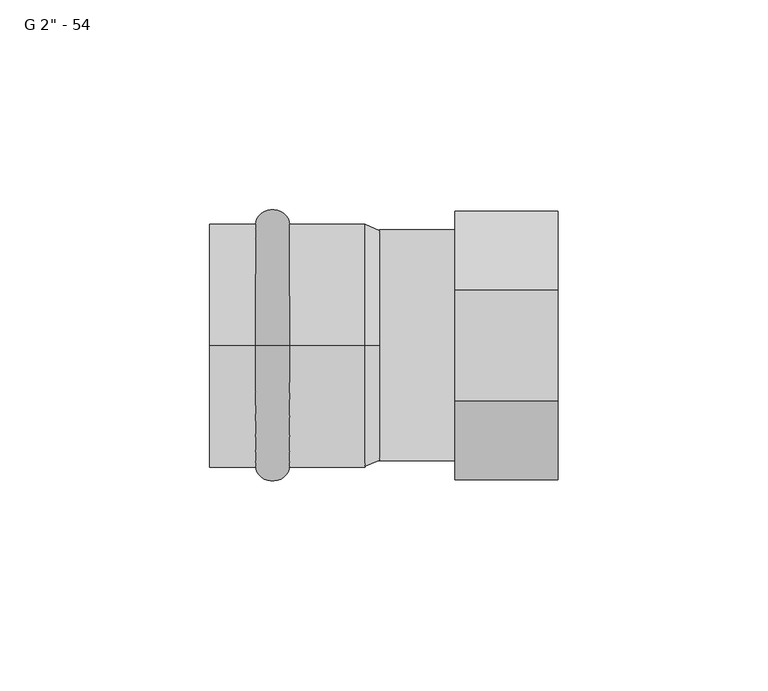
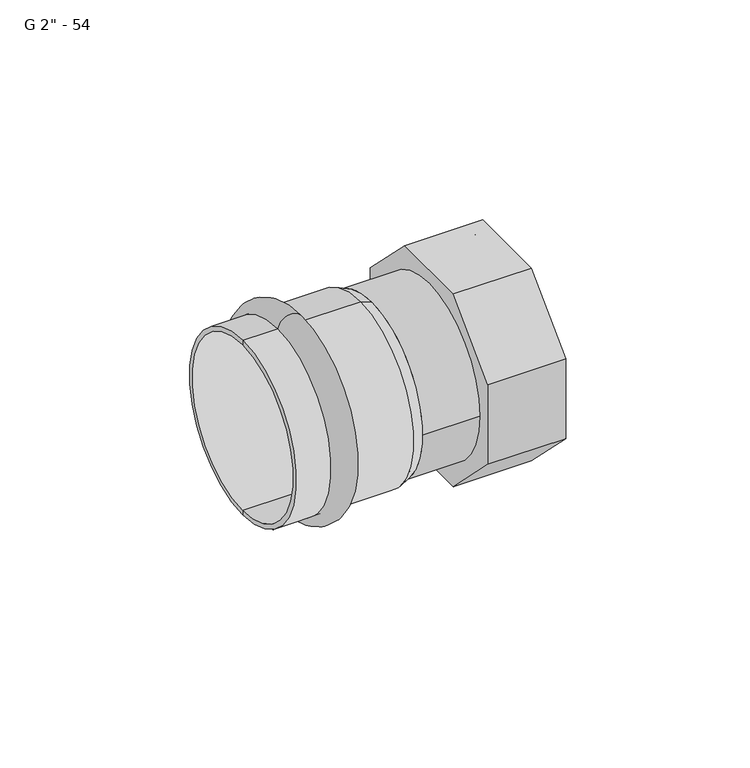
"""IFC4 building model written with IfcOpenShell, lengths in millimetres: pipe fitting geometry."""

from ifc_helpers import new_model, si_unit, point, frame, origin, origin_2d, place, context, project, spatial, polyline, circle_curve, ellipse_curve, trimmed, segment, composite_curve, outline, extrude, source, transform, mapped, element, save
from ifc_brep_helpers import plane_surface, cylinder_surface, revolved_surface, advanced_brep


def pipe_fitting_c8741562(model_context):
    return source(origin(), model_context, "Body", "SolidModel", [
        advanced_brep(
        [(-26.0, 0.0, 29.0), (-26.0, 0.0, -29.0), (-18.0, 0.0, -29.0), (-18.0, 0.0, 29.0)],
        [
            (0, 1, circle_curve(frame((-26.0, 0.0, 0.0), z_axis=(-1.0, 0.0, 0.0), x_axis=(0.0, 0.0, -1.0)), 29.0)),
            (1, 2),
            (2, 3, circle_curve(frame((-18.0, 0.0, 0.0), z_axis=(1.0, 0.0, 0.0), x_axis=(0.0, 0.0, -1.0)), 29.0)),
            (3, 0),
            (1, 0, circle_curve(frame((-26.0, 0.0, 0.0), z_axis=(-1.0, 0.0, 0.0), x_axis=(0.0, 0.0, -1.0)), 29.0)),
            (3, 2, circle_curve(frame((-18.0, 0.0, 0.0), z_axis=(1.0, 0.0, 0.0), x_axis=(0.0, 0.0, -1.0)), 29.0)),
            (2, 1, ellipse_curve(frame((-22.0, 0.0, -29.0), z_axis=(0.0, 1.0, 0.0), x_axis=(-1.0, 0.0, 0.0)), 4.0, 3.5)),
            (0, 3, ellipse_curve(frame((-22.0, 0.0, 29.0), z_axis=(0.0, 1.0, 0.0), x_axis=(-1.0, 0.0, 0.0)), 4.0, 3.5)),
        ],
        [
            revolved_surface(polyline([(-18.0, 0.0, -29.0), (-26.0, 0.0, -29.0)]), (4.0, 0.0, 0.0), (1.0, 0.0, 0.0)),
            revolved_surface(trimmed(ellipse_curve(frame((-22.0, 0.0, -29.0), z_axis=(0.0, -1.0, 0.0), x_axis=(-1.0, 0.0, 0.0)), 4.0, 3.5), [point((-26.0, 0.0, -29.0))], [point((-18.0, 0.0, -29.0))], True, "CARTESIAN"), (4.0, 0.0, 0.0), (1.0, 0.0, 0.0)),
        ],
        [
            (0, [[1, 2, 3, 4]]),
            (0, [[5, -4, 6, -2]]),
            (1, [[-3, 7, -1, 8]]),
            (1, [[-6, -8, -5, -7]]),
        ],
    ),
        advanced_brep(
        [(3.5337785, 0.0, 27.5), (3.5337785, 0.0, -27.5), (0.0, 0.0, -29.0), (0.0, 0.0, 29.0), (-37.0, 0.0, 27.5), (-37.0, 0.0, -27.5), (-37.0, 0.0, 29.0), (-37.0, 0.0, -29.0)],
        [
            (0, 1, circle_curve(frame((3.5337785, 0.0, 0.0), z_axis=(-1.0, 0.0, 0.0), x_axis=(0.0, 0.0, -1.0)), 27.5)),
            (1, 2),
            (2, 3, circle_curve(frame((0.0, 0.0, 0.0), z_axis=(1.0, 0.0, 0.0), x_axis=(0.0, 0.0, -1.0)), 29.0)),
            (3, 0),
            (1, 0, circle_curve(frame((3.5337785, 0.0, 0.0), z_axis=(-1.0, 0.0, 0.0), x_axis=(0.0, 0.0, -1.0)), 27.5)),
            (3, 2, circle_curve(frame((0.0, 0.0, 0.0), z_axis=(1.0, 0.0, 0.0), x_axis=(0.0, 0.0, -1.0)), 29.0)),
            (4, 5, circle_curve(frame((-37.0, 0.0, 0.0), z_axis=(-1.0, 0.0, 0.0), x_axis=(0.0, 0.0, -1.0)), 27.5)),
            (5, 1),
            (0, 4),
            (5, 4, circle_curve(frame((-37.0, 0.0, 0.0), z_axis=(-1.0, 0.0, 0.0), x_axis=(0.0, 0.0, -1.0)), 27.5)),
            (6, 7, circle_curve(frame((-37.0, 0.0, 0.0), z_axis=(-1.0, 0.0, 0.0), x_axis=(0.0, 0.0, -1.0)), 29.0)),
            (7, 5),
            (4, 6),
            (7, 6, circle_curve(frame((-37.0, 0.0, 0.0), z_axis=(-1.0, 0.0, 0.0), x_axis=(0.0, 0.0, -1.0)), 29.0)),
            (2, 7),
            (6, 3),
        ],
        [
            revolved_surface(polyline([(0.0, 0.0, -29.0), (3.5337785, 0.0, -27.5)]), (4.0, 0.0, 0.0), (1.0, 0.0, 0.0)),
            revolved_surface(polyline([(3.5337785, 0.0, -27.5), (-37.0, 0.0, -27.5)]), (4.0, 0.0, 0.0), (1.0, 0.0, 0.0)),
            plane_surface(frame((-37.0, 0.0, 0.0), z_axis=(-1.0, 0.0, 0.0), x_axis=(0.0, 0.0, -1.0))),
            cylinder_surface(frame((4.0, 0.0, 0.0), z_axis=(1.0, 0.0, 0.0), x_axis=(0.0, 0.0, -1.0)), 29.0),
        ],
        [
            (0, [[1, 2, 3, 4]]),
            (0, [[5, -4, 6, -2]]),
            (1, [[7, 8, -1, 9]]),
            (1, [[10, -9, -5, -8]]),
            (2, [[11, 12, -7, 13]]),
            (2, [[14, -13, -10, -12]]),
            (3, [[-3, 15, -11, 16]]),
            (3, [[-6, -16, -14, -15]]),
        ],
    ),
        extrude(outline(composite_curve([segment(trimmed(circle_curve(origin_2d(), 27.5), [point((-27.5, 0.0))], [point((27.5, 0.0))], False, "CARTESIAN"), True, "CONTINUOUS"), segment(trimmed(circle_curve(origin_2d(), 27.5), [point((27.5, 0.0))], [point((-27.5, 0.0))], False, "CARTESIAN"), True, "CONTINUOUS")], self_intersect=False)), frame((3.5337785, 0.0, 0.0), z_axis=(1.0, 0.0, 0.0), x_axis=(0.0, 1.0, 0.0)), (0.0, 0.0, 1.0), 18.0),
        advanced_brep(
        [(46.0337785, -32.0, -13.254834), (21.5337785, -32.0, -13.254834), (21.5337785, -13.254834, -32.0), (46.0337785, -13.254834, -32.0), (21.5337785, 13.254834, -32.0), (46.0337785, 13.254834, -32.0), (46.0337785, 32.0, 13.254834), (21.5337785, 32.0, 13.254834), (21.5337785, 13.254834, 32.0), (46.0337785, 13.254834, 32.0), (21.5337785, -13.254834, 32.0), (46.0337785, -13.254834, 32.0), (21.5337785, 32.0, -13.254834), (46.0337785, 32.0, -13.254834), (21.5337785, -32.0, 13.254834), (46.0337785, -32.0, 13.254834), (27.5337785, -30.0, 0.0), (27.5337785, 30.0, 0.0), (27.5337785, -9.1126984, -22.0), (27.5337785, -22.0, -9.1126984), (27.5337785, -22.0, 9.1126984), (27.5337785, -9.1126984, 22.0), (27.5337785, 9.1126984, 22.0), (27.5337785, 22.0, 9.1126984), (27.5337785, 22.0, -9.1126984), (27.5337785, 9.1126984, -22.0), (46.0337785, 30.0, 0.0), (46.0337785, -30.0, 0.0), (21.5337785, -22.0, -9.1126984), (21.5337785, -9.1126984, -22.0), (21.5337785, 9.1126984, -22.0), (21.5337785, 22.0, -9.1126984), (21.5337785, 22.0, 9.1126984), (21.5337785, 9.1126984, 22.0), (21.5337785, -9.1126984, 22.0), (21.5337785, -22.0, 9.1126984)],
        [
            (0, 1),
            (1, 2),
            (2, 3),
            (3, 0),
            (2, 4),
            (4, 5),
            (5, 3),
            (6, 7),
            (7, 8),
            (8, 9),
            (9, 6),
            (8, 10),
            (10, 11),
            (11, 9),
            (4, 12),
            (12, 13),
            (13, 5),
            (10, 14),
            (14, 15),
            (15, 11),
            (16, 17, circle_curve(frame((27.5337785, 0.0, 0.0), z_axis=(1.0, 0.0, 0.0), x_axis=(0.0, 1.0, 0.0)), 30.0)),
            (17, 16, circle_curve(frame((27.5337785, 0.0, 0.0), z_axis=(1.0, 0.0, 0.0), x_axis=(0.0, 1.0, 0.0)), 30.0)),
            (18, 19),
            (19, 20),
            (20, 21),
            (21, 22),
            (22, 23),
            (23, 24),
            (24, 25),
            (25, 18),
            (17, 26),
            (26, 27, circle_curve(frame((46.0337785, 0.0, 0.0), z_axis=(1.0, 0.0, 0.0), x_axis=(0.0, 1.0, 0.0)), 30.0)),
            (27, 16),
            (27, 26, circle_curve(frame((46.0337785, 0.0, 0.0), z_axis=(1.0, 0.0, 0.0), x_axis=(0.0, 1.0, 0.0)), 30.0)),
            (6, 13),
            (12, 7),
            (15, 0),
            (1, 14),
            (28, 29),
            (29, 30),
            (30, 31),
            (31, 32),
            (32, 33),
            (33, 34),
            (34, 35),
            (35, 28),
            (28, 19),
            (18, 29),
            (25, 30),
            (32, 23),
            (22, 33),
            (21, 34),
            (24, 31),
            (20, 35),
        ],
        [
            plane_surface(frame((21.5337785, -32.0, -13.254834), z_axis=(0.0, -0.7071067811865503, -0.7071067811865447), x_axis=(0.0, 0.7071067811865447, -0.7071067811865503))),
            plane_surface(frame((21.5337785, -13.254834, -32.0), z_axis=(0.0, 0.0, -1.0), x_axis=(0.0, 1.0, 0.0))),
            plane_surface(frame((21.5337785, 32.0, 13.254834), z_axis=(0.0, 0.707106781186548, 0.707106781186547), x_axis=(0.0, -0.707106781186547, 0.707106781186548))),
            plane_surface(frame((21.5337785, 13.254834, 32.0), z_axis=(0.0, 0.0, 1.0), x_axis=(0.0, -1.0, 0.0))),
            plane_surface(frame((21.5337785, 13.254834, -32.0), z_axis=(0.0, 0.7071067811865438, -0.7071067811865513), x_axis=(0.0, 0.7071067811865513, 0.7071067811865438))),
            plane_surface(frame((21.5337785, -13.254834, 32.0), z_axis=(0.0, -0.7071067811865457, 0.7071067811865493), x_axis=(0.0, -0.7071067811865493, -0.7071067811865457))),
            plane_surface(frame((27.5337785, 30.0, 0.0), z_axis=(1.0, 0.0, 0.0), x_axis=(0.0, 0.0, -1.0))),
            revolved_surface(polyline([(46.0337785, 30.0, 0.0), (27.5337785, 30.0, 0.0)]), (27.5337785, 0.0, 0.0), (1.0, 0.0, 0.0)),
            plane_surface(frame((21.5337785, 32.0, -13.254834), z_axis=(0.0, 1.0, 0.0), x_axis=(0.0, 0.0, 1.0))),
            plane_surface(frame((46.0337785, -32.0, 13.254834), z_axis=(1.0, 0.0, 0.0), x_axis=(0.0, 0.0, -1.0))),
            plane_surface(frame((21.5337785, -22.0, 9.1126984), z_axis=(-1.0, 0.0, 0.0), x_axis=(0.0, 0.0, -1.0))),
            plane_surface(frame((21.5337785, -32.0, 13.254834), z_axis=(0.0, -1.0, 0.0), x_axis=(0.0, 0.0, -1.0))),
            plane_surface(frame((46.0337785, -22.0, -9.1126984), z_axis=(0.0, 0.7071067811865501, 0.707106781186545), x_axis=(0.0, 0.707106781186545, -0.7071067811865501))),
            plane_surface(frame((46.0337785, -9.1126984, -22.0), z_axis=(0.0, 0.0, 1.0), x_axis=(0.0, 1.0, 0.0))),
            plane_surface(frame((46.0337785, 22.0, 9.1126984), z_axis=(0.0, -0.7071067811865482, -0.7071067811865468), x_axis=(0.0, -0.7071067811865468, 0.7071067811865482))),
            plane_surface(frame((46.0337785, 9.1126984, 22.0), z_axis=(0.0, 0.0, -1.0), x_axis=(0.0, -1.0, 0.0))),
            plane_surface(frame((46.0337785, 9.1126984, -22.0), z_axis=(0.0, -0.7071067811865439, 0.7071067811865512), x_axis=(0.0, 0.7071067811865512, 0.7071067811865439))),
            plane_surface(frame((46.0337785, -9.1126984, 22.0), z_axis=(0.0, 0.7071067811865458, -0.7071067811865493), x_axis=(0.0, -0.7071067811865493, -0.7071067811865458))),
            plane_surface(frame((46.0337785, 22.0, -9.1126984), z_axis=(0.0, -1.0, 0.0), x_axis=(0.0, 0.0, 1.0))),
            plane_surface(frame((46.0337785, -22.0, 9.1126984), z_axis=(0.0, 1.0, 0.0), x_axis=(0.0, 0.0, -1.0))),
        ],
        [
            (0, [[1, 2, 3, 4]]),
            (1, [[-3, 5, 6, 7]]),
            (2, [[8, 9, 10, 11]]),
            (3, [[-10, 12, 13, 14]]),
            (4, [[-6, 15, 16, 17]]),
            (5, [[-13, 18, 19, 20]]),
            (6, [[21, 22], [23, 24, 25, 26, 27, 28, 29, 30]]),
            (7, [[-22, 31, 32, 33]]),
            (7, [[-21, -33, 34, -31]]),
            (8, [[-8, 35, -16, 36]]),
            (9, [[-4, -7, -17, -35, -11, -14, -20, 37], [-32, -34]]),
            (10, [[-2, 38, -18, -12, -9, -36, -15, -5], [39, 40, 41, 42, 43, 44, 45, 46]]),
            (11, [[-1, -37, -19, -38]]),
            (12, [[-39, 47, -23, 48]]),
            (13, [[-40, -48, -30, 49]]),
            (14, [[-43, 50, -27, 51]]),
            (15, [[-44, -51, -26, 52]]),
            (16, [[-41, -49, -29, 53]]),
            (17, [[-45, -52, -25, 54]]),
            (18, [[-42, -53, -28, -50]]),
            (19, [[-46, -54, -24, -47]]),
        ],
    ),
    ])


if __name__ == "__main__":
    model = new_model("IFC4")
    model_context = context("Model", 3, world=origin())
    ifc_project = project(units=[si_unit("LENGTHUNIT", "METRE", prefix="MILLI")], contexts=[model_context])
    site = spatial("IfcSite", under=ifc_project)
    building = spatial("IfcBuilding", under=site)
    placement = place(None, origin())
    pipe_fitting_shape = pipe_fitting_c8741562(model_context)
    element("IfcPipeFitting", 1, ObjectType="РЕХАУ_Пресс Муфта с накидной гайкой : G 2\" - 54", at=placement, inside=building, context=model_context, shape_type="MappedRepresentation", body=[
        mapped(pipe_fitting_shape, transform((0.0, 0.0, 0.0), x_axis=(1.0, 0.0, 0.0), y_axis=(0.0, 1.0, 0.0), z_axis=(0.0, 0.0, 1.0))),
    ])
    save(model, "model.ifc")
